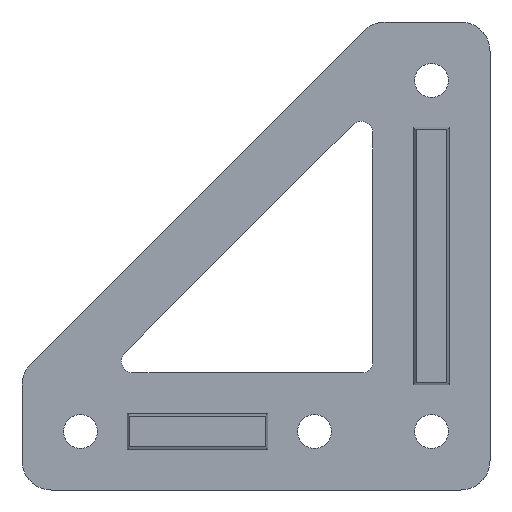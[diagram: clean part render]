
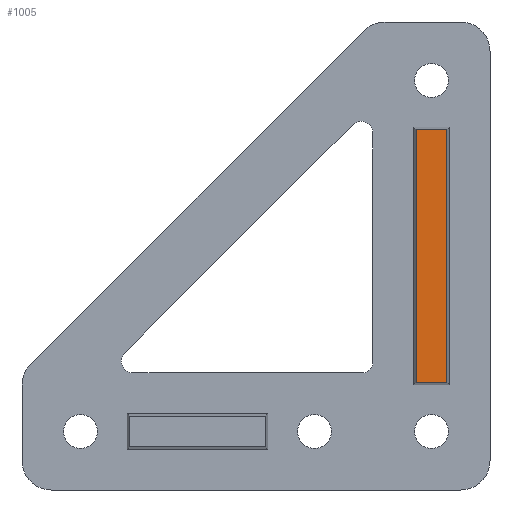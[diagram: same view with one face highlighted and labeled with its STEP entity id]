
A CAD part, left-side view. The second image highlights one B-rep face of the part: STEP entity #1005.
In plain terms, the highlighted planar face has unit normal (-1, 0, 0).
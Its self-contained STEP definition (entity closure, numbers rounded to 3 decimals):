
#7 = CARTESIAN_POINT ( 'NONE',  ( -2., 7., 18.353 ) ) ;
#8 = DIRECTION ( 'NONE',  ( 0., 1., 0. ) ) ;
#91 = CARTESIAN_POINT ( 'NONE',  ( -2., 7., 61.647 ) ) ;
#93 = DIRECTION ( 'NONE',  ( 0., -1., 0. ) ) ;
#164 = CARTESIAN_POINT ( 'NONE',  ( -2., 12.647, 62. ) ) ;
#166 = DIRECTION ( 'NONE',  ( 0., 0., 1. ) ) ;
#424 = CARTESIAN_POINT ( 'NONE',  ( -2., 0., 0. ) ) ;
#426 = PLANE ( 'NONE',  #634 ) ;
#428 = DIRECTION ( 'NONE',  ( -1., 0., 0. ) ) ;
#429 = DIRECTION ( 'NONE',  ( 0., 0., 1. ) ) ;
#484 = CARTESIAN_POINT ( 'NONE',  ( -2., 7.353, 18.353 ) ) ;
#486 = CARTESIAN_POINT ( 'NONE',  ( -2., 12.647, 61.647 ) ) ;
#489 = CARTESIAN_POINT ( 'NONE',  ( -2., 12.647, 18.353 ) ) ;
#516 = CARTESIAN_POINT ( 'NONE',  ( -2., 7.353, 61.647 ) ) ;
#547 = EDGE_CURVE ( 'NONE', #1192, #1143, #951, .T. ) ;
#580 = EDGE_CURVE ( 'NONE', #1143, #1150, #916, .T. ) ;
#634 = AXIS2_PLACEMENT_3D ( 'NONE', #424, #428, #429 ) ;
#666 = EDGE_CURVE ( 'NONE', #1147, #1192, #1617, .T. ) ;
#727 = EDGE_CURVE ( 'NONE', #1150, #1147, #859, .T. ) ;
#859 = LINE ( 'NONE', #164, #864 ) ;
#864 = VECTOR ( 'NONE', #166, 1000. ) ;
#916 = LINE ( 'NONE', #7, #920 ) ;
#920 = VECTOR ( 'NONE', #8, 1000. ) ;
#951 = LINE ( 'NONE', #1028, #953 ) ;
#953 = VECTOR ( 'NONE', #1026, 1000. ) ;
#1005 = ADVANCED_FACE ( 'NONE', ( #1073 ), #426, .T. ) ;
#1026 = DIRECTION ( 'NONE',  ( 0., 0., -1. ) ) ;
#1028 = CARTESIAN_POINT ( 'NONE',  ( -2., 7.353, 62. ) ) ;
#1073 = FACE_OUTER_BOUND ( 'NONE', #1187, .T. ) ;
#1143 = VERTEX_POINT ( 'NONE', #484 ) ;
#1147 = VERTEX_POINT ( 'NONE', #486 ) ;
#1150 = VERTEX_POINT ( 'NONE', #489 ) ;
#1187 = EDGE_LOOP ( 'NONE', ( #1281, #1319, #1297, #1358 ) ) ;
#1192 = VERTEX_POINT ( 'NONE', #516 ) ;
#1281 = ORIENTED_EDGE ( 'NONE', *, *, #666, .F. ) ;
#1297 = ORIENTED_EDGE ( 'NONE', *, *, #580, .F. ) ;
#1319 = ORIENTED_EDGE ( 'NONE', *, *, #727, .F. ) ;
#1358 = ORIENTED_EDGE ( 'NONE', *, *, #547, .F. ) ;
#1574 = VECTOR ( 'NONE', #93, 1000. ) ;
#1617 = LINE ( 'NONE', #91, #1574 ) ;
